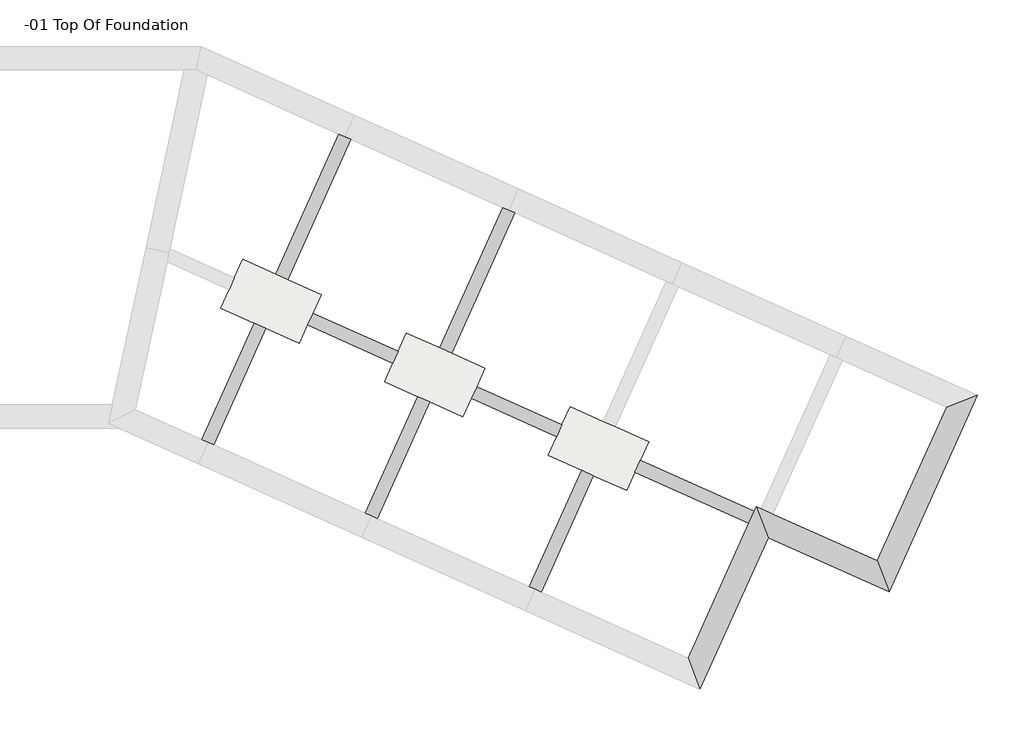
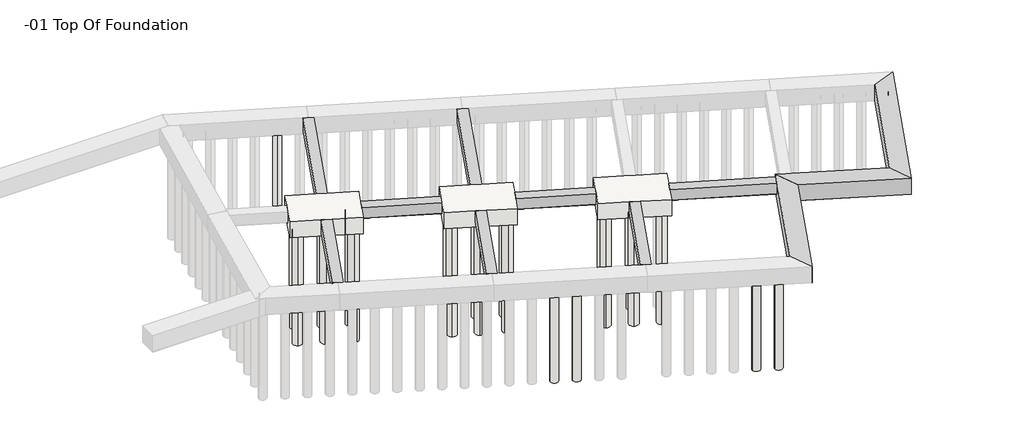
# One storey, part 4 of 6: 25 slabs, 11 beams.
"""IFC4 building model written with IfcOpenShell, lengths in millimetres."""

import ifcopenshell
import ifcopenshell.guid

model = None  # the IFC model being written
_history = None  # IfcOwnerHistory: only IFC2X3 demands one
_inside = {}  # id of a spatial element -> (the spatial element, [elements in it])
_under = {}  # id of a project, library or spatial element -> (it, [spatial elements below it])
_declared = {}  # id of a project -> (the project, [libraries it declares])
_typed = {}  # id of a type object -> (the type object, [elements of that type])
_made_of = {}  # id of a material, layer set ... -> (it, [elements and type objects made of it])


def new_model(schema):
    """Start an empty IFC model of exactly this schema.

    Asked for "IFC4X3", IfcOpenShell would pick the latest addendum, in which some entities
    have other attributes; the version numbers below select the first issue.
    IFC2X3 requires an IfcOwnerHistory on every rooted entity: one is made here for all.
    """
    global model, _history
    if schema == "IFC4X3":
        model = ifcopenshell.file(schema_version=(4, 3, 0, 0))
    else:
        model = ifcopenshell.file(schema=schema)
    _inside.clear()
    _under.clear()
    _declared.clear()
    _typed.clear()
    _made_of.clear()
    _history = None
    if model.schema == "IFC2X3":
        org = make("IfcOrganization", Name="unknown")
        user = make(
            "IfcPersonAndOrganization",
            ThePerson=make("IfcPerson", FamilyName="unknown"),
            TheOrganization=org,
        )
        app = make(
            "IfcApplication",
            ApplicationDeveloper=org,
            Version="unknown",
            ApplicationFullName="unknown",
            ApplicationIdentifier="unknown",
        )
        _history = make(
            "IfcOwnerHistory",
            OwningUser=user,
            OwningApplication=app,
            ChangeAction="ADDED",
            CreationDate=0,
        )
    return model


def make(cls, **values):
    """One entity of the class cls with the attributes given. An attribute that is None is left unset."""
    return model.create_entity(
        cls, **{name: value for name, value in values.items() if value is not None}
    )


def rooted(cls, **values):
    """An entity with a GlobalId (a new one), such as an element, a storey or a relation."""
    return make(cls, GlobalId=ifcopenshell.guid.new(), OwnerHistory=_history, **values)


def si_unit(unit_type, name, prefix=None):
    """IfcSIUnit, for example si_unit("LENGTHUNIT", "METRE", prefix="MILLI")."""
    return make("IfcSIUnit", UnitType=unit_type, Prefix=prefix, Name=name)


def assignment(units):
    """IfcUnitAssignment: the units of a project."""
    return None if units is None else make("IfcUnitAssignment", Units=units)


def point(xyz):
    """IfcCartesianPoint."""
    return None if xyz is None else make("IfcCartesianPoint", Coordinates=xyz)


def direction(xyz):
    """IfcDirection."""
    return None if xyz is None else make("IfcDirection", DirectionRatios=xyz)


def frame(location, z_axis=None, x_axis=None):
    """IfcAxis2Placement3D, a coordinate frame: its origin and axes. An axis left out is left unset."""
    return make(
        "IfcAxis2Placement3D",
        Location=point(location),
        Axis=direction(z_axis),
        RefDirection=direction(x_axis),
    )


def frame_2d(location, x_axis=None):
    """IfcAxis2Placement2D, a coordinate frame in the plane: its origin and x axis."""
    return make(
        "IfcAxis2Placement2D", Location=point(location), RefDirection=direction(x_axis)
    )


def origin():
    """The frame at (0, 0, 0) with its axes left unset."""
    return frame((0.0, 0.0, 0.0))


def place(relative_to, where):
    """IfcLocalPlacement: puts the frame where relative to a parent placement (None: the world)."""
    return make(
        "IfcLocalPlacement", PlacementRelTo=relative_to, RelativePlacement=where
    )


def context(
    kind, dimensions, precision=None, world=None, true_north=None, identifier=None
):
    """IfcGeometricRepresentationContext, for example the 3D "Model" context."""
    return make(
        "IfcGeometricRepresentationContext",
        ContextIdentifier=identifier,
        ContextType=kind,
        CoordinateSpaceDimension=dimensions,
        Precision=precision,
        WorldCoordinateSystem=world,
        TrueNorth=true_north,
    )


def project(units=None, contexts=None):
    """IfcProject with its units and contexts."""
    return rooted(
        "IfcProject",
        Name="project",
        RepresentationContexts=contexts,
        UnitsInContext=assignment(units),
    )


def spatial(cls, under=None, at=None, **own):
    """A site, building, storey or space (cls), placed at a placement, below another one or the project."""
    s = rooted(cls, ObjectPlacement=at, **own)
    if under is not None:
        _under.setdefault(under.id(), (under, []))[1].append(s)
    return s


def polyline(points):
    """IfcPolyline through the points."""
    return make("IfcPolyline", Points=[point(p) for p in points])


def circle_curve(where, radius):
    """IfcCircle in the frame where."""
    return make("IfcCircle", Position=where, Radius=radius)


def trimmed(basis, trim1, trim2, sense, master):
    """IfcTrimmedCurve: the piece of a basis curve between two trims."""
    return make(
        "IfcTrimmedCurve",
        BasisCurve=basis,
        Trim1=trim1,
        Trim2=trim2,
        SenseAgreement=sense,
        MasterRepresentation=master,
    )


def segment(curve, same_sense, transition):
    """IfcCompositeCurveSegment."""
    return make(
        "IfcCompositeCurveSegment",
        Transition=transition,
        SameSense=same_sense,
        ParentCurve=curve,
    )


def composite_curve(segments, self_intersect=None):
    """IfcCompositeCurve: segments joined end to end."""
    return make("IfcCompositeCurve", Segments=segments, SelfIntersect=self_intersect)


def outline(outer, holes=None, kind="AREA"):
    """IfcArbitraryClosedProfileDef: a profile drawn as a closed curve; with holes, ...WithVoids."""
    if holes is None:
        return make("IfcArbitraryClosedProfileDef", ProfileType=kind, OuterCurve=outer)
    return make(
        "IfcArbitraryProfileDefWithVoids",
        ProfileType=kind,
        OuterCurve=outer,
        InnerCurves=holes,
    )


def extrude(swept, where, along, depth):
    """IfcExtrudedAreaSolid: the profile swept, set in the frame where, extruded along a direction by depth."""
    return make(
        "IfcExtrudedAreaSolid",
        SweptArea=swept,
        Position=where,
        ExtrudedDirection=direction(along),
        Depth=depth,
    )


def faces_of(points, faces, orient=None, outer=None):
    """IfcFace entities. A face is a list of loops; a loop is a list of indices into points, from 0.

    orient and outer hold one flag for each loop. By default every Orientation is true, the
    first loop of a face is its IfcFaceOuterBound and the others are IfcFaceBound.
    """
    made = []
    for i, loops in enumerate(faces):
        bounds = []
        for j, loop in enumerate(loops):
            is_outer = j == 0 if outer is None else outer[i][j]
            bounds.append(
                make(
                    "IfcFaceOuterBound" if is_outer else "IfcFaceBound",
                    Bound=make("IfcPolyLoop", Polygon=[points[k] for k in loop]),
                    Orientation=True if orient is None else orient[i][j],
                )
            )
        made.append(make("IfcFace", Bounds=bounds))
    return made


def faceted_brep(points, faces, orient=None, outer=None, voids=None):
    """IfcFacetedBrep: a solid bounded by flat faces; with voids (closed shells), ...WithVoids."""
    shared = [point(p) for p in points]
    hull = make("IfcClosedShell", CfsFaces=faces_of(shared, faces, orient, outer))
    if voids is None:
        return make("IfcFacetedBrep", Outer=hull)
    return make(
        "IfcFacetedBrepWithVoids",
        Outer=hull,
        Voids=[
            make(cls, CfsFaces=faces_of(shared, fs, o, b)) for cls, fs, o, b in voids
        ],
    )


def shape(context_of_items, identifier, shape_type, items):
    """IfcShapeRepresentation: the items that make up one representation, for example the "Body"."""
    return make(
        "IfcShapeRepresentation",
        ContextOfItems=context_of_items,
        RepresentationIdentifier=identifier,
        RepresentationType=shape_type,
        Items=items,
    )


def made_of(thing, what):
    """Note that an element or type object is made of a material, layer set ...; save() writes the relation."""
    if what is not None:
        _made_of.setdefault(what.id(), (what, []))[1].append(thing)
    return thing


def element(
    cls,
    number,
    at=None,
    inside=None,
    cuts=None,
    type_object=None,
    material=None,
    context=None,
    identifier="Body",
    shape_type=None,
    held_by="IfcProductDefinitionShape",
    body=None,
    shapes=None,
    **own,
):
    """One element of the class cls, such as IfcWall. Its Tag is "e" and its number.

    at: its placement. inside: the storey or other place that contains it. cuts: it is an
    opening in that element (IfcRelVoidsElement). A single representation is given by context,
    identifier, shape_type and body (its items); several are given by shapes. held_by: the class
    of the entity that holds the representations. save() writes the other relations.
    """
    e = rooted(cls, Tag="e%d" % number, ObjectPlacement=at, **own)
    if body is not None:
        shapes = [shape(context, identifier, shape_type, body)]
    if shapes is not None:
        e.Representation = make(held_by, Representations=shapes)
    if inside is not None:
        _inside.setdefault(inside.id(), (inside, []))[1].append(e)
    if cuts is not None:
        rooted(
            "IfcRelVoidsElement", RelatingBuildingElement=cuts, RelatedOpeningElement=e
        )
    if type_object is not None:
        _typed.setdefault(type_object.id(), (type_object, []))[1].append(e)
    return made_of(e, material)


def aggregate(whole, parts):
    """IfcRelAggregates: a whole, such as a stair, and the parts it consists of."""
    return rooted("IfcRelAggregates", RelatingObject=whole, RelatedObjects=parts)


def save(model, path):
    """Write the relations noted so far, then the file.

    IfcRelAggregates (storeys below a building ...), IfcRelContainedInSpatialStructure (elements
    in a storey), IfcRelDefinesByType, IfcRelAssociatesMaterial and IfcRelDeclares: one each for
    every whole, place, type object, material and project.
    """
    for whole, parts in _under.values():
        aggregate(whole, parts)
    for where, things in _inside.values():
        rooted(
            "IfcRelContainedInSpatialStructure",
            RelatedElements=things,
            RelatingStructure=where,
        )
    for kind, things in _typed.values():
        rooted("IfcRelDefinesByType", RelatedObjects=things, RelatingType=kind)
    for what, things in _made_of.values():
        rooted("IfcRelAssociatesMaterial", RelatedObjects=things, RelatingMaterial=what)
    for by, libraries in _declared.values():
        rooted("IfcRelDeclares", RelatingContext=by, RelatedDefinitions=libraries)
    model.write(path)


def plane_surface(at):
    """IfcPlane: the flat surface through the origin of the frame at, square to its z axis."""
    return make("IfcPlane", Position=at)


def revolved_surface(curve, axis_point, axis_direction):
    """IfcSurfaceOfRevolution: the curve turned about the line through axis_point along axis_direction."""
    return make(
        "IfcSurfaceOfRevolution",
        SweptCurve=make("IfcArbitraryOpenProfileDef", ProfileType="CURVE", Curve=curve),
        AxisPosition=make("IfcAxis1Placement", Location=point(axis_point), Axis=direction(axis_direction)),
    )


def advanced_brep(points, edges, surfaces, faces):
    """IfcAdvancedBrep: a solid bounded by faces that lie on surfaces and meet in shared edges.

    An edge is (start, end): straight between two places in points (the first is 0);
    or (start, end, curve); or (start, end, curve, False) where it runs against its curve.
    A face is (place in surfaces, loops), or (place, loops, False) where it looks against
    its surface's normal. A loop lists edges by number (the first is 1), with a minus sign
    where the edge is run from its end to its start. The first loop is the outer one.
    """
    corners = [point(p) for p in points]
    vertices = [make("IfcVertexPoint", VertexGeometry=c) for c in corners]
    made = []
    for start, end, *more in edges:
        made.append(
            make(
                "IfcEdgeCurve",
                EdgeStart=vertices[start],
                EdgeEnd=vertices[end],
                EdgeGeometry=more[0] if more else make("IfcPolyline", Points=[corners[start], corners[end]]),
                SameSense=more[1] if len(more) > 1 else True,
            )
        )
    hull = []
    for where, loops, *sense in faces:
        bounds = []
        for j, loop in enumerate(loops):
            ring = [make("IfcOrientedEdge", EdgeElement=made[abs(k) - 1], Orientation=k > 0) for k in loop]
            bounds.append(
                make(
                    "IfcFaceOuterBound" if j == 0 else "IfcFaceBound",
                    Bound=make("IfcEdgeLoop", EdgeList=ring),
                    Orientation=True,
                )
            )
        hull.append(make("IfcAdvancedFace", Bounds=bounds, FaceSurface=surfaces[where], SameSense=sense[0] if sense else True))
    return make("IfcAdvancedBrep", Outer=make("IfcClosedShell", CfsFaces=hull))


model = new_model("IFC4")

# Units and contexts
model_context = context("Model", 3, world=origin())
ifc_project = project(units=[si_unit("LENGTHUNIT", "METRE", prefix="MILLI")], contexts=[model_context])

# Site, building, storey
site = spatial("IfcSite", under=ifc_project)
building = spatial("IfcBuilding", under=site)
storey = spatial("IfcBuildingStorey", under=building, Name="-01 Top Of Foundation", Elevation=-304.8)

# Beams
placement = place(None, origin())
element("IfcBeam", 1, ObjectType="Ring Beam : 12 x 24", at=placement, inside=storey, context=model_context, shape_type="Brep", body=[
    faceted_brep([(31118.4126766, -14894.1882927, -304.8), (31350.1102376, -14998.2663415, -304.8), (31581.8077985, -15102.3443902, -304.8), (33626.9414571, -10549.4873171, -304.8), (33163.5463351, -10341.3312195, -304.8), (31581.8077985, -15102.3443902, -889.0), (33626.9414571, -10549.4873171, -889.0), (31558.6380425, -15091.9365854, -914.4), (33603.771701, -10539.0795122, -914.4), (31141.5824327, -14904.5960976, -914.4), (33186.7160912, -10351.7390244, -914.4), (31118.4126766, -14894.1882927, -889.0), (33163.5463351, -10341.3312195, -889.0)], [[[0, 1, 2, 3, 4]], [[2, 5, 6, 3]], [[5, 7, 8, 6]], [[7, 9, 10, 8]], [[9, 11, 12, 10]], [[11, 0, 4, 12]], [[5, 2, 1, 0, 11, 9, 7]], [[4, 3, 6, 8, 10, 12]]]),
])
element("IfcBeam", 2, ObjectType="Ring Beam : 12 x 24", at=placement, inside=storey, context=model_context, shape_type="Brep", body=[
    faceted_brep([(36941.8273107, -3169.92, -304.8), (36710.1297498, -3065.8419512, -304.8), (36478.4321888, -2961.7639024, -304.8), (34016.9863351, -8441.4112195, -304.8), (34480.3814571, -8649.5673171, -304.8), (36941.8273107, -3169.92, -889.0), (34480.3814571, -8649.5673171, -889.0), (36918.6575546, -3159.5121951, -914.4), (34457.211701, -8639.1595122, -914.4), (36501.6019449, -2972.1717073, -914.4), (34040.1560912, -8451.8190244, -914.4), (36478.4321888, -2961.7639024, -889.0), (34016.9863351, -8441.4112195, -889.0)], [[[0, 1, 2, 3, 4]], [[5, 0, 4, 6]], [[7, 5, 6, 8]], [[9, 7, 8, 10]], [[11, 9, 10, 12]], [[2, 11, 12, 3]], [[0, 5, 7, 9, 11, 2, 1]], [[4, 3, 12, 10, 8, 6]]]),
])
element("IfcBeam", 3, ObjectType="Ring Beam : 12 x 24", at=placement, inside=storey, context=model_context, shape_type="SweptSolid", body=[
    extrude(outline(polyline([(0.0, 787.4), (0.0, 1295.4), (584.2, 1295.4), (609.6, 1270.0), (609.6, 812.8), (584.2, 787.4), (0.0, 787.4)])), frame((39114.3326766, -10731.1282927, -304.8), z_axis=(-0.9121951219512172, 0.4097560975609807, 0.0), x_axis=(0.0, 0.0, -1.0)), (0.0, 0.0, 1.0), 3657.6),
])
element("IfcBeam", 4, ObjectType="Ring Beam : 12 x 24", at=placement, inside=storey, context=model_context, shape_type="Brep", body=[
    faceted_brep([(43336.6799937, -6042.4741463, -304.8), (43104.9824327, -5938.3960976, -304.8), (42873.2848717, -5834.3180488, -304.8), (40411.8390181, -11313.9653659, -304.8), (40875.23414, -11522.1214634, -304.8), (42873.2848717, -5834.3180488, -889.0), (40411.8390181, -11313.9653659, -889.0), (42896.4546278, -5844.7258537, -914.4), (40435.0087742, -11324.3731707, -914.4), (43313.5102376, -6032.0663415, -914.4), (40852.0643839, -11511.7136585, -914.4), (43336.6799937, -6042.4741463, -889.0), (40875.23414, -11522.1214634, -889.0)], [[[0, 1, 2, 3, 4]], [[2, 5, 6, 3]], [[5, 7, 8, 6]], [[7, 9, 10, 8]], [[9, 11, 12, 10]], [[11, 0, 4, 12]], [[11, 9, 7, 5, 2, 1, 0]], [[4, 3, 6, 8, 10, 12]]]),
])
element("IfcBeam", 5, ObjectType="Ring Beam : 12 x 24", at=placement, inside=storey, context=model_context, shape_type="Brep", body=[
    faceted_brep([(37513.2653595, -17766.742439, -304.8), (37744.9629205, -17870.8204878, -304.8), (37976.6604815, -17974.8985366, -304.8), (40021.79414, -13422.0414634, -304.8), (39558.3990181, -13213.8853659, -304.8), (37513.2653595, -17766.742439, -889.0), (39558.3990181, -13213.8853659, -889.0), (37536.4351156, -17777.1502439, -914.4), (39581.5687742, -13224.2931707, -914.4), (37953.4907254, -17964.4907317, -914.4), (39998.6243839, -13411.6336585, -914.4), (37976.6604815, -17974.8985366, -889.0), (40021.79414, -13422.0414634, -889.0)], [[[0, 1, 2, 3, 4]], [[5, 0, 4, 6]], [[7, 5, 6, 8]], [[9, 7, 8, 10]], [[11, 9, 10, 12]], [[2, 11, 12, 3]], [[0, 5, 7, 9, 11, 2, 1]], [[4, 3, 12, 10, 8, 6]]]),
])
element("IfcBeam", 6, ObjectType="Ring Beam : 12 x 24", at=placement, inside=storey, context=model_context, shape_type="Brep", body=[
    faceted_brep([(43908.1180425, -20639.2965854, -304.8), (44139.8156034, -20743.3746341, -304.8), (44371.5131644, -20847.4526829, -304.8), (46416.6468229, -16294.5956098, -304.8), (45953.251701, -16086.4395122, -304.8), (43908.1180425, -20639.2965854, -889.0), (45953.251701, -16086.4395122, -889.0), (43931.2877985, -20649.7043902, -914.4), (45976.4214571, -16096.8473171, -914.4), (44348.3434083, -20837.044878, -914.4), (46393.4770668, -16284.1878049, -914.4), (44371.5131644, -20847.4526829, -889.0), (46416.6468229, -16294.5956098, -889.0)], [[[0, 1, 2, 3, 4]], [[5, 0, 4, 6]], [[7, 5, 6, 8]], [[9, 7, 8, 10]], [[11, 9, 10, 12]], [[2, 11, 12, 3]], [[0, 5, 7, 9, 11, 2, 1]], [[4, 3, 12, 10, 8, 6]]]),
])
element("IfcBeam", 7, ObjectType="Ring Beam : 12 x 24", at=placement, inside=storey, context=model_context, shape_type="SweptSolid", body=[
    extrude(outline(polyline([(0.0, 787.4), (0.0, 1295.4), (584.2, 1295.4), (609.6, 1270.0), (609.6, 812.8), (584.2, 787.4), (0.0, 787.4)])), frame((45509.1853595, -13603.682439, -304.8), z_axis=(-0.9121951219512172, 0.4097560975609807, 0.0), x_axis=(0.0, 0.0, -1.0)), (0.0, 0.0, 1.0), 3657.6),
])
element("IfcBeam", 8, ObjectType="Ring Beam : 12 x 24", at=placement, inside=storey, context=model_context, shape_type="SweptSolid", body=[
    extrude(outline(polyline([(-723.9, 889.0), (-215.9, 889.0), (-215.9, 304.8), (-241.3, 279.4), (-698.5, 279.4), (-723.9, 304.8), (-723.9, 889.0)])), frame((52396.9219449, -18354.4117073, -1193.8), z_axis=(-0.9121951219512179, 0.4097560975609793, 0.0), x_axis=(-0.4097560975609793, -0.9121951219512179, 0.0)), (0.0, 0.0, 1.0), 4876.8),
])
element("IfcBeam", 9, ObjectType="Ring Beam : 16 x 32", at=placement, inside=storey, context=model_context, shape_type="AdvancedBrep", body=[
    advanced_brep(
    [(53236.2370668, -18717.5078049, -304.8), (50577.0429205, -24637.3804878, -304.8), (50577.0429205, -24637.3804878, -1193.8), (53236.2370668, -18717.5078049, -1193.8), (52776.8068229, -17508.7156098, -304.8), (52693.5443839, -17694.0736585, -304.8), (52485.3882864, -18157.4687805, -304.8), (50117.6126766, -23428.5882927, -304.8), (50564.2809693, -24603.8029268, -1219.2), (53223.4751156, -18683.9302439, -1219.2), (50419.5202965, -24222.9277587, -1219.2), (50532.6858473, -24116.2468293, -1219.2), (50275.1353006, -23843.0410218, -1219.2), (50130.3746278, -23462.1658537, -1219.2), (52789.5687742, -17542.2931707, -1219.2), (50117.6126766, -23428.5882927, -1193.8), (52776.8068229, -17508.7156098, -1193.8), (50275.1353006, -23843.0410218, -1066.8), (50532.6858473, -24116.2468293, -1066.8), (50419.5202965, -24222.9277587, -1066.8)],
    [
        (0, 1),
        (1, 2),
        (2, 3),
        (3, 0),
        (0, 4),
        (4, 5),
        (5, 6),
        (6, 7),
        (7, 1),
        (2, 8),
        (8, 9),
        (9, 3),
        (8, 10),
        (10, 11, circle_curve(frame((50347.3277985, -24032.9843902, -1219.2), z_axis=(0.0, 0.0, 1.0), x_axis=(0.9121951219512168, -0.4097560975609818, 0.0)), 203.2)),
        (11, 12, circle_curve(frame((50347.3277985, -24032.9843902, -1219.2), z_axis=(0.0, 0.0, 1.0), x_axis=(0.9121951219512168, -0.4097560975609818, 0.0)), 203.2)),
        (12, 13),
        (13, 14),
        (14, 9),
        (13, 15),
        (15, 16),
        (16, 14),
        (4, 16),
        (15, 7),
        (17, 18, circle_curve(frame((50347.3277985, -24032.9843902, -1066.8), z_axis=(0.0, 0.0, -1.0), x_axis=(0.9121951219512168, -0.4097560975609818, 0.0)), 203.2)),
        (18, 19, circle_curve(frame((50347.3277985, -24032.9843902, -1066.8), z_axis=(0.0, 0.0, -1.0), x_axis=(0.9121951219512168, -0.4097560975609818, 0.0)), 203.2)),
        (19, 17),
        (18, 11),
        (10, 19),
        (17, 12),
    ],
    [
        plane_surface(frame((53231.0331644, -18729.0926829, -304.8), z_axis=(0.9121951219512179, -0.4097560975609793, 0.0), x_axis=(-0.4097560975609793, -0.9121951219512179, 0.0))),
        plane_surface(frame((52396.9219449, -18354.4117073, -304.8), z_axis=(0.0, 0.0, 1.0), x_axis=(-0.4097560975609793, -0.9121951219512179, 0.0))),
        plane_surface(frame((53231.0331644, -18729.0926829, -1193.8), z_axis=(0.6450193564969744, -0.28974131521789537, -0.7071067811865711), x_axis=(-0.4097560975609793, -0.9121951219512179, 0.0))),
        plane_surface(frame((53207.8634083, -18718.684878, -1219.2), z_axis=(0.0, 0.0, -1.0), x_axis=(-0.4097560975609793, -0.9121951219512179, 0.0))),
        plane_surface(frame((52420.091701, -18364.8195122, -1219.2), z_axis=(-0.6450193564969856, 0.2897413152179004, -0.7071067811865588), x_axis=(-0.4097560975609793, -0.9121951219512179, 0.0))),
        plane_surface(frame((52396.9219449, -18354.4117073, -1193.8), z_axis=(-0.9121951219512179, 0.4097560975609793, 0.0), x_axis=(-0.4097560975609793, -0.9121951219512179, 0.0))),
        plane_surface(frame((50532.6858473, -24116.2468293, -1066.8), z_axis=(0.0, 0.0, -1.0), x_axis=(0.4097560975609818, 0.9121951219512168, 0.0))),
        revolved_surface(polyline([(50532.68584728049, -24116.24682922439, -1066.8000000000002), (50532.68584728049, -24116.24682922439, -1219.1999999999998)]), (50347.3277985, -24032.9843902, -6096.0), (0.0, 0.0, 1.0)),
        plane_surface(frame((53236.2370668, -18717.5078049, -304.8), z_axis=(0.934760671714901, 0.3552780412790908, 0.0), x_axis=(0.3552780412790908, -0.934760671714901, 0.0))),
        plane_surface(frame((50117.6126766, -23428.5882927, -304.8), z_axis=(-0.9347606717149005, -0.355278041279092, 0.0), x_axis=(0.355278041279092, -0.9347606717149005, 0.0))),
    ],
    [
        (0, [[1, 2, 3, 4]]),
        (1, [[-1, 5, 6, 7, 8, 9]]),
        (2, [[-3, 10, 11, 12]]),
        (3, [[-11, 13, 14, 15, 16, 17, 18]]),
        (4, [[-17, 19, 20, 21]]),
        (5, [[-8, -7, -6, 22, -20, 23]]),
        (6, [[24, 25, 26]]),
        (7, [[-25, 27, -14, 28]]),
        (7, [[-24, 29, -15, -27]]),
        (8, [[-5, -4, -12, -18, -21, -22]]),
        (9, [[-23, -19, -16, -29, -26, -28, -13, -10, -2, -9]]),
    ],
),
])
element("IfcBeam", 10, ObjectType="Ring Beam : 16 x 32", at=placement, inside=storey, context=model_context, shape_type="Brep", body=[
    faceted_brep([(57962.8673107, -20840.7, -304.8), (53236.2370668, -18717.5078049, -304.8), (53236.2370668, -18717.5078049, -1193.8), (57962.8673107, -20840.7, -1193.8), (57503.4370668, -19631.9078049, -304.8), (53425.5599937, -17800.1341463, -304.8), (52962.1648717, -17591.9780488, -304.8), (52776.8068229, -17508.7156098, -304.8), (53223.4751156, -18683.9302439, -1219.2), (57950.1053595, -20807.122439, -1219.2), (52789.5687742, -17542.2931707, -1219.2), (57516.1990181, -19665.4853659, -1219.2), (52776.8068229, -17508.7156098, -1193.8), (57503.4370668, -19631.9078049, -1193.8)], [[[0, 1, 2, 3]], [[1, 0, 4, 5, 6, 7]], [[3, 2, 8, 9]], [[9, 8, 10, 11]], [[11, 10, 12, 13]], [[7, 6, 5, 4, 13, 12]], [[7, 12, 10, 8, 2, 1]], [[4, 0, 3, 9, 11, 13]]]),
])
element("IfcBeam", 11, ObjectType="Ring Beam : 16 x 32", at=placement, inside=storey, context=model_context, shape_type="AdvancedBrep", body=[
    advanced_brep(
    [(61413.0546278, -13159.9258537, -304.8), (57962.8673107, -20840.7, -304.8), (57962.8673107, -20840.7, -1193.8), (61413.0546278, -13159.9258537, -1193.8), (60204.2624327, -13619.3560976, -304.8), (57503.4370668, -19631.9078049, -304.8), (57950.1053595, -20807.122439, -1219.2), (61379.4770668, -13172.6878049, -1219.2), (57516.1990181, -19665.4853659, -1219.2), (60237.8399937, -13606.5941463, -1219.2), (60618.7151618, -13461.8334736, -1219.2), (60725.3960912, -13574.9990244, -1219.2), (60998.6018987, -13317.4484776, -1219.2), (57503.4370668, -19631.9078049, -1193.8), (60204.2624327, -13619.3560976, -1193.8), (60998.6018987, -13317.4484776, -1066.8), (60618.7151618, -13461.8334736, -1066.8), (60725.3960912, -13574.9990244, -1066.8)],
    [
        (0, 1),
        (1, 2),
        (2, 3),
        (3, 0),
        (0, 4),
        (4, 5),
        (5, 1),
        (2, 6),
        (6, 7),
        (7, 3),
        (6, 8),
        (8, 9),
        (9, 10),
        (10, 11, circle_curve(frame((60808.6585303, -13389.6409756, -1219.2), z_axis=(0.0, 0.0, 1.0), x_axis=(0.4097560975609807, 0.9121951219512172, 0.0)), 203.2)),
        (11, 12, circle_curve(frame((60808.6585303, -13389.6409756, -1219.2), z_axis=(0.0, 0.0, 1.0), x_axis=(0.4097560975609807, 0.9121951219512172, 0.0)), 203.2)),
        (12, 7),
        (8, 13),
        (13, 14),
        (14, 9),
        (4, 14),
        (13, 5),
        (12, 15),
        (15, 16),
        (16, 10),
        (17, 16, circle_curve(frame((60808.6585303, -13389.6409756, -1066.8), z_axis=(0.0, 0.0, -1.0), x_axis=(0.4097560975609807, 0.9121951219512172, 0.0)), 203.2)),
        (15, 17, circle_curve(frame((60808.6585303, -13389.6409756, -1066.8), z_axis=(0.0, 0.0, -1.0), x_axis=(0.4097560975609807, 0.9121951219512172, 0.0)), 203.2)),
        (11, 17),
    ],
    [
        plane_surface(frame((61033.1697498, -14005.6219512, -749.3), z_axis=(0.9121951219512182, -0.4097560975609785, 0.0), x_axis=(0.0, 0.0, -1.0))),
        plane_surface(frame((60616.11414, -13818.2814634, -304.8), z_axis=(0.0, 0.0, 1.0), x_axis=(0.9121951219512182, -0.4097560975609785, 0.0))),
        plane_surface(frame((61021.5848717, -14000.4180488, -1206.5), z_axis=(0.6450193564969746, -0.2897413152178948, -0.7071067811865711), x_axis=(-0.6450193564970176, 0.28974131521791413, -0.707106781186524))),
        plane_surface(frame((60616.11414, -13818.2814634, -1219.2), z_axis=(0.0, 0.0, -1.0), x_axis=(-0.9121951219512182, 0.4097560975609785, 0.0))),
        plane_surface(frame((60210.6434083, -13636.144878, -1206.5), z_axis=(-0.6450193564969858, 0.28974131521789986, -0.7071067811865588), x_axis=(-0.6450193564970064, 0.2897413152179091, 0.7071067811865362))),
        plane_surface(frame((60199.0585303, -13630.9409756, -749.3), z_axis=(-0.9121951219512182, 0.4097560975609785, 0.0), x_axis=(0.0, 0.0, 1.0))),
        plane_surface(frame((60204.2624327, -13619.3560976, -304.8), z_axis=(-0.35527804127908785, 0.934760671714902, 0.0), x_axis=(0.934760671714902, 0.35527804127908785, 0.0))),
        plane_surface(frame((60891.9209693, -13204.2829268, -1066.8), z_axis=(0.0, 0.0, -1.0), x_axis=(-0.9121951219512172, 0.4097560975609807, 0.0))),
        revolved_surface(polyline([(60891.9209693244, -13204.282926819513, -1066.8000000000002), (60891.9209693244, -13204.282926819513, -1219.1999999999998)]), (60808.6585303, -13389.6409756, -6096.0), (0.0, 0.0, 1.0)),
        plane_surface(frame((57503.4370668, -19631.9078049, -304.8), z_axis=(-0.934760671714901, -0.3552780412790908, 0.0), x_axis=(0.3552780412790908, -0.934760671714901, 0.0))),
    ],
    [
        (0, [[1, 2, 3, 4]]),
        (1, [[-1, 5, 6, 7]]),
        (2, [[-3, 8, 9, 10]]),
        (3, [[-9, 11, 12, 13, 14, 15, 16]]),
        (4, [[-12, 17, 18, 19]]),
        (5, [[-6, 20, -18, 21]]),
        (6, [[-5, -4, -10, -16, 22, 23, 24, -13, -19, -20]]),
        (7, [[25, -23, 26]]),
        (8, [[-26, -22, -15, 27]]),
        (8, [[-25, -27, -14, -24]]),
        (9, [[-21, -17, -11, -8, -2, -7]]),
    ],
),
])

# Slabs
element("IfcSlab", 12, ObjectType="Pile Cap-6 Pile : 132\"x82\"x35\"", at=placement, inside=storey, context=model_context, shape_type="AdvancedBrep", body=[
    advanced_brep(
    [(32719.4799937, -7858.5741463, -304.8), (32396.8380425, -8576.8365854, -304.8), (32188.6819449, -9040.2317073, -304.8), (31866.0399937, -9758.4941463, -304.8), (33163.5463351, -10341.3312195, -304.8), (33626.9414571, -10549.4873171, -304.8), (34924.4477985, -11132.3243902, -304.8), (35247.0897498, -10414.0619512, -304.8), (35455.2458473, -9950.6668293, -304.8), (35777.8877985, -9232.4043902, -304.8), (34480.3814571, -8649.5673171, -304.8), (34016.9863351, -8441.4112195, -304.8), (32719.4799937, -7858.5741463, -1193.8), (35777.8877985, -9232.4043902, -1193.8), (34924.4477985, -11132.3243902, -1193.8), (31866.0399937, -9758.4941463, -1193.8), (33978.0809693, -9147.9029268, -1193.8), (34186.2370668, -8684.5078049, -1193.8), (32819.5931644, -8627.5126829, -1193.8), (33027.749262, -8164.117561, -1193.8), (33457.6907254, -10306.3907317, -1193.8), (33665.8468229, -9842.9956098, -1193.8), (34186.2370668, -8684.5078049, -1041.4), (33978.0809693, -9147.9029268, -1041.4), (33027.749262, -8164.117561, -1041.4), (32819.5931644, -8627.5126829, -1041.4), (33665.8468229, -9842.9956098, -1041.4), (33457.6907254, -10306.3907317, -1041.4)],
    [
        (0, 1),
        (1, 2),
        (2, 3),
        (3, 4),
        (4, 5),
        (5, 6),
        (6, 7),
        (7, 8),
        (8, 9),
        (9, 10),
        (10, 11),
        (11, 0),
        (12, 13),
        (13, 14),
        (14, 15),
        (15, 12),
        (16, 17, circle_curve(frame((34082.1590181, -8916.2053659, -1193.8), z_axis=(0.0, 0.0, 1.0), x_axis=(0.4097560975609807, 0.9121951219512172, 0.0)), 254.0)),
        (17, 16, circle_curve(frame((34082.1590181, -8916.2053659, -1193.8), z_axis=(0.0, 0.0, 1.0), x_axis=(0.4097560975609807, 0.9121951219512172, 0.0)), 254.0)),
        (18, 19, circle_curve(frame((32923.6712132, -8395.815122, -1193.8), z_axis=(0.0, 0.0, 1.0), x_axis=(0.4097560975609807, 0.9121951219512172, 0.0)), 254.0)),
        (19, 18, circle_curve(frame((32923.6712132, -8395.815122, -1193.8), z_axis=(0.0, 0.0, 1.0), x_axis=(0.4097560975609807, 0.9121951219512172, 0.0)), 254.0)),
        (20, 21, circle_curve(frame((33561.7687742, -10074.6931707, -1193.8), z_axis=(0.0, 0.0, 1.0), x_axis=(0.4097560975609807, 0.9121951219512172, 0.0)), 254.0)),
        (21, 20, circle_curve(frame((33561.7687742, -10074.6931707, -1193.8), z_axis=(0.0, 0.0, 1.0), x_axis=(0.4097560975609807, 0.9121951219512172, 0.0)), 254.0)),
        (0, 12),
        (15, 3),
        (14, 6),
        (13, 9),
        (22, 23, circle_curve(frame((34082.1590181, -8916.2053659, -1041.4), z_axis=(0.0, 0.0, -1.0), x_axis=(0.4097560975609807, 0.9121951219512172, 0.0)), 254.0)),
        (23, 22, circle_curve(frame((34082.1590181, -8916.2053659, -1041.4), z_axis=(0.0, 0.0, -1.0), x_axis=(0.4097560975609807, 0.9121951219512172, 0.0)), 254.0)),
        (22, 17),
        (16, 23),
        (24, 25, circle_curve(frame((32923.6712132, -8395.815122, -1041.4), z_axis=(0.0, 0.0, -1.0), x_axis=(0.4097560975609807, 0.9121951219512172, 0.0)), 254.0)),
        (25, 24, circle_curve(frame((32923.6712132, -8395.815122, -1041.4), z_axis=(0.0, 0.0, -1.0), x_axis=(0.4097560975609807, 0.9121951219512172, 0.0)), 254.0)),
        (24, 19),
        (18, 25),
        (26, 27, circle_curve(frame((33561.7687742, -10074.6931707, -1041.4), z_axis=(0.0, 0.0, -1.0), x_axis=(0.4097560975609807, 0.9121951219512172, 0.0)), 254.0)),
        (27, 26, circle_curve(frame((33561.7687742, -10074.6931707, -1041.4), z_axis=(0.0, 0.0, -1.0), x_axis=(0.4097560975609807, 0.9121951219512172, 0.0)), 254.0)),
        (26, 21),
        (20, 27),
    ],
    [
        plane_surface(frame((31866.0399937, -9758.4941463, -304.8), z_axis=(0.0, 0.0, 1.0), x_axis=(-0.4097560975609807, -0.9121951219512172, 0.0))),
        plane_surface(frame((31866.0399937, -9758.4941463, -1193.8), z_axis=(0.0, 0.0, -1.0), x_axis=(0.4097560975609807, 0.9121951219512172, 0.0))),
        plane_surface(frame((32719.4799937, -7858.5741463, -304.8), z_axis=(-0.9121951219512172, 0.4097560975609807, 0.0), x_axis=(0.0, 0.0, -1.0))),
        plane_surface(frame((31866.0399937, -9758.4941463, -304.8), z_axis=(-0.40975609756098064, -0.9121951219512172, 0.0), x_axis=(0.0, 0.0, -1.0))),
        plane_surface(frame((34924.4477985, -11132.3243902, -304.8), z_axis=(0.9121951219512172, -0.4097560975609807, 0.0), x_axis=(0.0, 0.0, -1.0))),
        plane_surface(frame((35777.8877985, -9232.4043902, -304.8), z_axis=(0.40975609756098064, 0.9121951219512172, 0.0), x_axis=(0.0, 0.0, -1.0))),
        plane_surface(frame((34186.2370668, -8684.5078049, -1041.4), z_axis=(0.0, 0.0, -1.0), x_axis=(-0.9121951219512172, 0.4097560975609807, 0.0))),
        revolved_surface(polyline([(34186.23706688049, -8684.50780492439, -1041.4000000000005), (34186.23706688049, -8684.50780492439, -1193.8000000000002)]), (34082.1590181, -8916.2053659, -7289.8), (0.0, 0.0, 1.0)),
        plane_surface(frame((33027.749262, -8164.117561, -1041.4), z_axis=(0.0, 0.0, -1.0), x_axis=(-0.9121951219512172, 0.4097560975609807, 0.0))),
        revolved_surface(polyline([(33027.74926198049, -8164.117561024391, -1041.4000000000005), (33027.74926198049, -8164.117561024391, -1193.8000000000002)]), (32923.6712132, -8395.815122, -7289.8), (0.0, 0.0, 1.0)),
        plane_surface(frame((33665.8468229, -9842.9956098, -1041.4), z_axis=(0.0, 0.0, -1.0), x_axis=(-0.9121951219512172, 0.4097560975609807, 0.0))),
        revolved_surface(polyline([(33665.846822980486, -9842.99560972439, -1041.4000000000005), (33665.846822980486, -9842.99560972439, -1193.8000000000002)]), (33561.7687742, -10074.6931707, -7289.8), (0.0, 0.0, 1.0)),
    ],
    [
        (0, [[1, 2, 3, 4, 5, 6, 7, 8, 9, 10, 11, 12]]),
        (1, [[13, 14, 15, 16], [17, 18], [19, 20], [21, 22]]),
        (2, [[-3, -2, -1, 23, -16, 24]]),
        (3, [[-6, -5, -4, -24, -15, 25]]),
        (4, [[-9, -8, -7, -25, -14, 26]]),
        (5, [[-12, -11, -10, -26, -13, -23]]),
        (6, [[27, 28]]),
        (7, [[-27, 29, -17, 30]]),
        (7, [[-28, -30, -18, -29]]),
        (8, [[31, 32]]),
        (9, [[-31, 33, -19, 34]]),
        (9, [[-32, -34, -20, -33]]),
        (10, [[35, 36]]),
        (11, [[-35, 37, -21, 38]]),
        (11, [[-36, -38, -22, -37]]),
    ],
),
])
element("IfcSlab", 13, ObjectType="Pile Cap-6 Pile : 132\"x82\"x35\"", at=placement, inside=storey, context=model_context, shape_type="Brep", body=[
    faceted_brep([(39114.3326766, -10731.1282927, -304.8), (38791.6907254, -11449.3907317, -304.8), (38583.5346278, -11912.7858537, -304.8), (38260.8926766, -12631.0482927, -304.8), (39558.3990181, -13213.8853659, -304.8), (40021.79414, -13422.0414634, -304.8), (41319.3004815, -14004.8785366, -304.8), (41641.9424327, -13286.6160976, -304.8), (41850.0985303, -12823.2209756, -304.8), (42172.7404815, -12104.9585366, -304.8), (40875.23414, -11522.1214634, -304.8), (40411.8390181, -11313.9653659, -304.8), (39114.3326766, -10731.1282927, -1193.8), (42172.7404815, -12104.9585366, -1193.8), (41319.3004815, -14004.8785366, -1193.8), (38260.8926766, -12631.0482927, -1193.8)], [[[0, 1, 2, 3, 4, 5, 6, 7, 8, 9, 10, 11]], [[12, 13, 14, 15]], [[3, 2, 1, 0, 12, 15]], [[6, 5, 4, 3, 15, 14]], [[9, 8, 7, 6, 14, 13]], [[0, 11, 10, 9, 13, 12]]]),
])
element("IfcSlab", 14, ObjectType="Pile Cap-6 Pile : 132\"x82\"x35\"", at=placement, inside=storey, context=model_context, shape_type="Brep", body=[
    faceted_brep([(45509.1853595, -13603.682439, -304.8), (45186.5434083, -14321.944878, -304.8), (44978.3873107, -14785.34, -304.8), (44655.7453595, -15503.602439, -304.8), (45953.251701, -16086.4395122, -304.8), (46416.6468229, -16294.5956098, -304.8), (47714.1531644, -16877.4326829, -304.8), (48036.7951156, -16159.1702439, -304.8), (48244.9512132, -15695.775122, -304.8), (48567.5931644, -14977.5126829, -304.8), (47270.0868229, -14394.6756098, -304.8), (46806.691701, -14186.5195122, -304.8), (45509.1853595, -13603.682439, -1193.8), (48567.5931644, -14977.5126829, -1193.8), (47714.1531644, -16877.4326829, -1193.8), (44655.7453595, -15503.602439, -1193.8)], [[[0, 1, 2, 3, 4, 5, 6, 7, 8, 9, 10, 11]], [[12, 13, 14, 15]], [[3, 2, 1, 0, 12, 15]], [[6, 5, 4, 3, 15, 14]], [[9, 8, 7, 6, 14, 13]], [[0, 11, 10, 9, 13, 12]]]),
])
element("IfcSlab", 15, ObjectType="Round In Situ Concrete Pile : 16\" Diameter", at=placement, inside=storey, context=model_context, shape_type="SweptSolid", body=[
    extrude(outline(composite_curve([segment(trimmed(circle_curve(frame_2d((40107.0123015, -19432.424878)), 203.2), [point((39903.8123015, -19432.424878))], [point((40310.2123015, -19432.424878))], False, "CARTESIAN"), True, "CONTINUOUS"), segment(trimmed(circle_curve(frame_2d((40107.0123015, -19432.424878)), 203.2), [point((40310.2123015, -19432.424878))], [point((39903.8123015, -19432.424878))], False, "CARTESIAN"), True, "CONTINUOUS")], self_intersect=False)), frame((0.0, 0.0, -6096.0), z_axis=(0.0, 0.0, 1.0), x_axis=(1.0, 0.0, 0.0)), (0.0, 0.0, 1.0), 5029.2),
])
element("IfcSlab", 16, ObjectType="Round In Situ Concrete Pile : 16\" Diameter", at=placement, inside=storey, context=model_context, shape_type="SweptSolid", body=[
    extrude(outline(composite_curve([segment(trimmed(circle_curve(frame_2d((41037.950074, -19850.657561)), 203.2), [point((40834.750074, -19850.657561))], [point((41241.150074, -19850.657561))], False, "CARTESIAN"), True, "CONTINUOUS"), segment(trimmed(circle_curve(frame_2d((41037.950074, -19850.657561)), 203.2), [point((41241.150074, -19850.657561))], [point((40834.750074, -19850.657561))], False, "CARTESIAN"), True, "CONTINUOUS")], self_intersect=False)), frame((0.0, 0.0, -6096.0), z_axis=(0.0, 0.0, 1.0), x_axis=(1.0, 0.0, 0.0)), (0.0, 0.0, 1.0), 5029.2),
])
element("IfcSlab", 17, ObjectType="Round In Situ Concrete Pile : 16\" Diameter", at=placement, inside=storey, context=model_context, shape_type="SweptSolid", body=[
    extrude(outline(composite_curve([segment(trimmed(circle_curve(frame_2d((48485.4522536, -23196.5190244)), 203.2), [point((48282.2522536, -23196.5190244))], [point((48688.6522536, -23196.5190244))], False, "CARTESIAN"), True, "CONTINUOUS"), segment(trimmed(circle_curve(frame_2d((48485.4522536, -23196.5190244)), 203.2), [point((48688.6522536, -23196.5190244))], [point((48282.2522536, -23196.5190244))], False, "CARTESIAN"), True, "CONTINUOUS")], self_intersect=False)), frame((0.0, 0.0, -6096.0), z_axis=(0.0, 0.0, 1.0), x_axis=(1.0, 0.0, 0.0)), (0.0, 0.0, 1.0), 5029.2),
])
element("IfcSlab", 18, ObjectType="Round In Situ Concrete Pile : 16\" Diameter", at=placement, inside=storey, context=model_context, shape_type="SweptSolid", body=[
    extrude(outline(composite_curve([segment(trimmed(circle_curve(frame_2d((49416.3900261, -23614.7517073)), 203.2), [point((49213.1900261, -23614.7517073))], [point((49619.5900261, -23614.7517073))], False, "CARTESIAN"), True, "CONTINUOUS"), segment(trimmed(circle_curve(frame_2d((49416.3900261, -23614.7517073)), 203.2), [point((49619.5900261, -23614.7517073))], [point((49213.1900261, -23614.7517073))], False, "CARTESIAN"), True, "CONTINUOUS")], self_intersect=False)), frame((0.0, 0.0, -6096.0), z_axis=(0.0, 0.0, 1.0), x_axis=(1.0, 0.0, 0.0)), (0.0, 0.0, 1.0), 5029.2),
])
element("IfcSlab", 19, ObjectType="Round In Situ Concrete Pile : 16\" Diameter", at=placement, inside=storey, context=model_context, shape_type="SweptSolid", body=[
    extrude(outline(composite_curve([segment(trimmed(circle_curve(frame_2d((35654.1512289, -2090.2901023)), 203.2), [point((35570.8887899, -2275.6481511))], [point((35737.4136679, -1904.9320535))], False, "CARTESIAN"), True, "CONTINUOUS"), segment(trimmed(circle_curve(frame_2d((35654.1512289, -2090.2901023)), 203.2), [point((35737.4136679, -1904.9320535))], [point((35570.8887899, -2275.6481511))], False, "CARTESIAN"), True, "CONTINUOUS")], self_intersect=False)), frame((0.0, 0.0, -6096.0), z_axis=(0.0, 0.0, 1.0), x_axis=(1.0, 0.0, 0.0)), (0.0, 0.0, 1.0), 5029.2),
])
element("IfcSlab", 20, ObjectType="Round In Situ Concrete Pile : 20\" Diameter", at=placement, inside=storey, context=model_context, shape_type="SweptSolid", body=[
    extrude(outline(composite_curve([segment(trimmed(circle_curve(frame_2d((32403.2809693, -9554.3029268)), 254.0), [point((32299.2029205, -9786.0004878))], [point((32507.3590181, -9322.6053659))], False, "CARTESIAN"), True, "CONTINUOUS"), segment(trimmed(circle_curve(frame_2d((32403.2809693, -9554.3029268)), 254.0), [point((32507.3590181, -9322.6053659))], [point((32299.2029205, -9786.0004878))], False, "CARTESIAN"), True, "CONTINUOUS")], self_intersect=False)), frame((0.0, 0.0, -7289.8), z_axis=(0.0, 0.0, 1.0), x_axis=(1.0, 0.0, 0.0)), (0.0, 0.0, 1.0), 6248.4),
])
element("IfcSlab", 21, ObjectType="Round In Situ Concrete Pile : 20\" Diameter", at=placement, inside=storey, context=model_context, shape_type="SweptSolid", body=[
    extrude(outline(composite_curve([segment(trimmed(circle_curve(frame_2d((34720.256579, -10595.0834146)), 254.0), [point((34616.1785303, -10826.7809756))], [point((34824.3346278, -10363.3858537))], False, "CARTESIAN"), True, "CONTINUOUS"), segment(trimmed(circle_curve(frame_2d((34720.256579, -10595.0834146)), 254.0), [point((34824.3346278, -10363.3858537))], [point((34616.1785303, -10826.7809756))], False, "CARTESIAN"), True, "CONTINUOUS")], self_intersect=False)), frame((0.0, 0.0, -7289.8), z_axis=(0.0, 0.0, 1.0), x_axis=(1.0, 0.0, 0.0)), (0.0, 0.0, 1.0), 6248.4),
])
element("IfcSlab", 22, ObjectType="Round In Situ Concrete Pile : 20\" Diameter", at=placement, inside=storey, context=model_context, shape_type="SweptSolid", body=[
    extrude(outline(composite_curve([segment(trimmed(circle_curve(frame_2d((35240.6468229, -9436.5956098)), 254.0), [point((35136.5687742, -9668.2931707))], [point((35344.7248717, -9204.8980488))], False, "CARTESIAN"), True, "CONTINUOUS"), segment(trimmed(circle_curve(frame_2d((35240.6468229, -9436.5956098)), 254.0), [point((35344.7248717, -9204.8980488))], [point((35136.5687742, -9668.2931707))], False, "CARTESIAN"), True, "CONTINUOUS")], self_intersect=False)), frame((0.0, 0.0, -7289.8), z_axis=(0.0, 0.0, 1.0), x_axis=(1.0, 0.0, 0.0)), (0.0, 0.0, 1.0), 6248.4),
])
element("IfcSlab", 23, ObjectType="Round In Situ Concrete Pile : 20\" Diameter", at=placement, inside=storey, context=model_context, shape_type="SweptSolid", body=[
    extrude(outline(composite_curve([segment(trimmed(circle_curve(frame_2d((32923.6712132, -8395.815122)), 254.0), [point((32819.5931644, -8627.5126829))], [point((33027.749262, -8164.117561))], False, "CARTESIAN"), True, "CONTINUOUS"), segment(trimmed(circle_curve(frame_2d((32923.6712132, -8395.815122)), 254.0), [point((33027.749262, -8164.117561))], [point((32819.5931644, -8627.5126829))], False, "CARTESIAN"), True, "CONTINUOUS")], self_intersect=False)), frame((0.0, 0.0, -7289.8), z_axis=(0.0, 0.0, 1.0), x_axis=(1.0, 0.0, 0.0)), (0.0, 0.0, 1.0), 6248.4),
])
element("IfcSlab", 24, ObjectType="Round In Situ Concrete Pile : 20\" Diameter", at=placement, inside=storey, context=model_context, shape_type="SweptSolid", body=[
    extrude(outline(composite_curve([segment(trimmed(circle_curve(frame_2d((33561.7687742, -10074.6931707)), 254.0), [point((33457.6907254, -10306.3907317))], [point((33665.8468229, -9842.9956098))], False, "CARTESIAN"), True, "CONTINUOUS"), segment(trimmed(circle_curve(frame_2d((33561.7687742, -10074.6931707)), 254.0), [point((33665.8468229, -9842.9956098))], [point((33457.6907254, -10306.3907317))], False, "CARTESIAN"), True, "CONTINUOUS")], self_intersect=False)), frame((0.0, 0.0, -7289.8), z_axis=(0.0, 0.0, 1.0), x_axis=(1.0, 0.0, 0.0)), (0.0, 0.0, 1.0), 6248.4),
])
element("IfcSlab", 25, ObjectType="Round In Situ Concrete Pile : 20\" Diameter", at=placement, inside=storey, context=model_context, shape_type="SweptSolid", body=[
    extrude(outline(composite_curve([segment(trimmed(circle_curve(frame_2d((34082.1590181, -8916.2053659)), 254.0), [point((33978.0809693, -9147.9029268))], [point((34186.2370668, -8684.5078049))], False, "CARTESIAN"), True, "CONTINUOUS"), segment(trimmed(circle_curve(frame_2d((34082.1590181, -8916.2053659)), 254.0), [point((34186.2370668, -8684.5078049))], [point((33978.0809693, -9147.9029268))], False, "CARTESIAN"), True, "CONTINUOUS")], self_intersect=False)), frame((0.0, 0.0, -7289.8), z_axis=(0.0, 0.0, 1.0), x_axis=(1.0, 0.0, 0.0)), (0.0, 0.0, 1.0), 6248.4),
])
element("IfcSlab", 26, ObjectType="Round In Situ Concrete Pile : 20\" Diameter", at=placement, inside=storey, context=model_context, shape_type="SweptSolid", body=[
    extrude(outline(composite_curve([segment(trimmed(circle_curve(frame_2d((38798.1336522, -12426.8570732)), 254.0), [point((38694.0556034, -12658.5546341))], [point((38902.211701, -12195.1595122))], False, "CARTESIAN"), True, "CONTINUOUS"), segment(trimmed(circle_curve(frame_2d((38798.1336522, -12426.8570732)), 254.0), [point((38902.211701, -12195.1595122))], [point((38694.0556034, -12658.5546341))], False, "CARTESIAN"), True, "CONTINUOUS")], self_intersect=False)), frame((0.0, 0.0, -7289.8), z_axis=(0.0, 0.0, 1.0), x_axis=(1.0, 0.0, 0.0)), (0.0, 0.0, 1.0), 6096.0),
])
element("IfcSlab", 27, ObjectType="Round In Situ Concrete Pile : 20\" Diameter", at=placement, inside=storey, context=model_context, shape_type="SweptSolid", body=[
    extrude(outline(composite_curve([segment(trimmed(circle_curve(frame_2d((41115.109262, -13467.637561)), 254.0), [point((41011.0312132, -13699.335122))], [point((41219.1873107, -13235.94))], False, "CARTESIAN"), True, "CONTINUOUS"), segment(trimmed(circle_curve(frame_2d((41115.109262, -13467.637561)), 254.0), [point((41219.1873107, -13235.94))], [point((41011.0312132, -13699.335122))], False, "CARTESIAN"), True, "CONTINUOUS")], self_intersect=False)), frame((0.0, 0.0, -7289.8), z_axis=(0.0, 0.0, 1.0), x_axis=(1.0, 0.0, 0.0)), (0.0, 0.0, 1.0), 6096.0),
])
element("IfcSlab", 28, ObjectType="Round In Situ Concrete Pile : 20\" Diameter", at=placement, inside=storey, context=model_context, shape_type="SweptSolid", body=[
    extrude(outline(composite_curve([segment(trimmed(circle_curve(frame_2d((41635.4995059, -12309.1497561)), 254.0), [point((41531.4214571, -12540.8473171))], [point((41739.5775546, -12077.4521951))], False, "CARTESIAN"), True, "CONTINUOUS"), segment(trimmed(circle_curve(frame_2d((41635.4995059, -12309.1497561)), 254.0), [point((41739.5775546, -12077.4521951))], [point((41531.4214571, -12540.8473171))], False, "CARTESIAN"), True, "CONTINUOUS")], self_intersect=False)), frame((0.0, 0.0, -7289.8), z_axis=(0.0, 0.0, 1.0), x_axis=(1.0, 0.0, 0.0)), (0.0, 0.0, 1.0), 6096.0),
])
element("IfcSlab", 29, ObjectType="Round In Situ Concrete Pile : 20\" Diameter", at=placement, inside=storey, context=model_context, shape_type="SweptSolid", body=[
    extrude(outline(composite_curve([segment(trimmed(circle_curve(frame_2d((39318.5238961, -11268.3692683)), 254.0), [point((39214.4458473, -11500.0668293))], [point((39422.6019449, -11036.6717073))], False, "CARTESIAN"), True, "CONTINUOUS"), segment(trimmed(circle_curve(frame_2d((39318.5238961, -11268.3692683)), 254.0), [point((39422.6019449, -11036.6717073))], [point((39214.4458473, -11500.0668293))], False, "CARTESIAN"), True, "CONTINUOUS")], self_intersect=False)), frame((0.0, 0.0, -7289.8), z_axis=(0.0, 0.0, 1.0), x_axis=(1.0, 0.0, 0.0)), (0.0, 0.0, 1.0), 6096.0),
])
element("IfcSlab", 30, ObjectType="Round In Situ Concrete Pile : 20\" Diameter", at=placement, inside=storey, context=model_context, shape_type="SweptSolid", body=[
    extrude(outline(composite_curve([segment(trimmed(circle_curve(frame_2d((39956.6214571, -12947.2473171)), 254.0), [point((39852.5434083, -13178.944878))], [point((40060.6995059, -12715.5497561))], False, "CARTESIAN"), True, "CONTINUOUS"), segment(trimmed(circle_curve(frame_2d((39956.6214571, -12947.2473171)), 254.0), [point((40060.6995059, -12715.5497561))], [point((39852.5434083, -13178.944878))], False, "CARTESIAN"), True, "CONTINUOUS")], self_intersect=False)), frame((0.0, 0.0, -7289.8), z_axis=(0.0, 0.0, 1.0), x_axis=(1.0, 0.0, 0.0)), (0.0, 0.0, 1.0), 6096.0),
])
element("IfcSlab", 31, ObjectType="Round In Situ Concrete Pile : 20\" Diameter", at=placement, inside=storey, context=model_context, shape_type="SweptSolid", body=[
    extrude(outline(composite_curve([segment(trimmed(circle_curve(frame_2d((40477.011701, -11788.7595122)), 254.0), [point((40372.9336522, -12020.4570732))], [point((40581.0897498, -11557.0619512))], False, "CARTESIAN"), True, "CONTINUOUS"), segment(trimmed(circle_curve(frame_2d((40477.011701, -11788.7595122)), 254.0), [point((40581.0897498, -11557.0619512))], [point((40372.9336522, -12020.4570732))], False, "CARTESIAN"), True, "CONTINUOUS")], self_intersect=False)), frame((0.0, 0.0, -7289.8), z_axis=(0.0, 0.0, 1.0), x_axis=(1.0, 0.0, 0.0)), (0.0, 0.0, 1.0), 6096.0),
])
element("IfcSlab", 32, ObjectType="Round In Situ Concrete Pile : 20\" Diameter", at=placement, inside=storey, context=model_context, shape_type="SweptSolid", body=[
    extrude(outline(composite_curve([segment(trimmed(circle_curve(frame_2d((45192.9863351, -15299.4112195)), 254.0), [point((45088.9082864, -15531.1087805))], [point((45297.0643839, -15067.7136585))], False, "CARTESIAN"), True, "CONTINUOUS"), segment(trimmed(circle_curve(frame_2d((45192.9863351, -15299.4112195)), 254.0), [point((45297.0643839, -15067.7136585))], [point((45088.9082864, -15531.1087805))], False, "CARTESIAN"), True, "CONTINUOUS")], self_intersect=False)), frame((0.0, 0.0, -7289.8), z_axis=(0.0, 0.0, 1.0), x_axis=(1.0, 0.0, 0.0)), (0.0, 0.0, 1.0), 6096.0),
])
element("IfcSlab", 33, ObjectType="Round In Situ Concrete Pile : 20\" Diameter", at=placement, inside=storey, context=model_context, shape_type="SweptSolid", body=[
    extrude(outline(composite_curve([segment(trimmed(circle_curve(frame_2d((47509.9619449, -16340.1917073)), 254.0), [point((47405.8838961, -16571.8892683))], [point((47614.0399937, -16108.4941463))], False, "CARTESIAN"), True, "CONTINUOUS"), segment(trimmed(circle_curve(frame_2d((47509.9619449, -16340.1917073)), 254.0), [point((47614.0399937, -16108.4941463))], [point((47405.8838961, -16571.8892683))], False, "CARTESIAN"), True, "CONTINUOUS")], self_intersect=False)), frame((0.0, 0.0, -7289.8), z_axis=(0.0, 0.0, 1.0), x_axis=(1.0, 0.0, 0.0)), (0.0, 0.0, 1.0), 6096.0),
])
element("IfcSlab", 34, ObjectType="Round In Situ Concrete Pile : 20\" Diameter", at=placement, inside=storey, context=model_context, shape_type="SweptSolid", body=[
    extrude(outline(composite_curve([segment(trimmed(circle_curve(frame_2d((45713.376579, -14140.9234146)), 254.0), [point((45609.2985303, -14372.6209756))], [point((45817.4546278, -13909.2258537))], False, "CARTESIAN"), True, "CONTINUOUS"), segment(trimmed(circle_curve(frame_2d((45713.376579, -14140.9234146)), 254.0), [point((45817.4546278, -13909.2258537))], [point((45609.2985303, -14372.6209756))], False, "CARTESIAN"), True, "CONTINUOUS")], self_intersect=False)), frame((0.0, 0.0, -7289.8), z_axis=(0.0, 0.0, 1.0), x_axis=(1.0, 0.0, 0.0)), (0.0, 0.0, 1.0), 6096.0),
])
element("IfcSlab", 35, ObjectType="Round In Situ Concrete Pile : 20\" Diameter", at=placement, inside=storey, context=model_context, shape_type="SweptSolid", body=[
    extrude(outline(composite_curve([segment(trimmed(circle_curve(frame_2d((46351.47414, -15819.8014634)), 254.0), [point((46247.3960912, -16051.4990244))], [point((46455.5521888, -15588.1039024))], False, "CARTESIAN"), True, "CONTINUOUS"), segment(trimmed(circle_curve(frame_2d((46351.47414, -15819.8014634)), 254.0), [point((46455.5521888, -15588.1039024))], [point((46247.3960912, -16051.4990244))], False, "CARTESIAN"), True, "CONTINUOUS")], self_intersect=False)), frame((0.0, 0.0, -7289.8), z_axis=(0.0, 0.0, 1.0), x_axis=(1.0, 0.0, 0.0)), (0.0, 0.0, 1.0), 6096.0),
])
element("IfcSlab", 36, ObjectType="Round In Situ Concrete Pile : 20\" Diameter", at=placement, inside=storey, context=model_context, shape_type="SweptSolid", body=[
    extrude(outline(composite_curve([segment(trimmed(circle_curve(frame_2d((46871.8643839, -14661.3136585)), 254.0), [point((46767.7863351, -14893.0112195))], [point((46975.9424327, -14429.6160976))], False, "CARTESIAN"), True, "CONTINUOUS"), segment(trimmed(circle_curve(frame_2d((46871.8643839, -14661.3136585)), 254.0), [point((46975.9424327, -14429.6160976))], [point((46767.7863351, -14893.0112195))], False, "CARTESIAN"), True, "CONTINUOUS")], self_intersect=False)), frame((0.0, 0.0, -7289.8), z_axis=(0.0, 0.0, 1.0), x_axis=(1.0, 0.0, 0.0)), (0.0, 0.0, 1.0), 6096.0),
])

save(model, "model.ifc")
